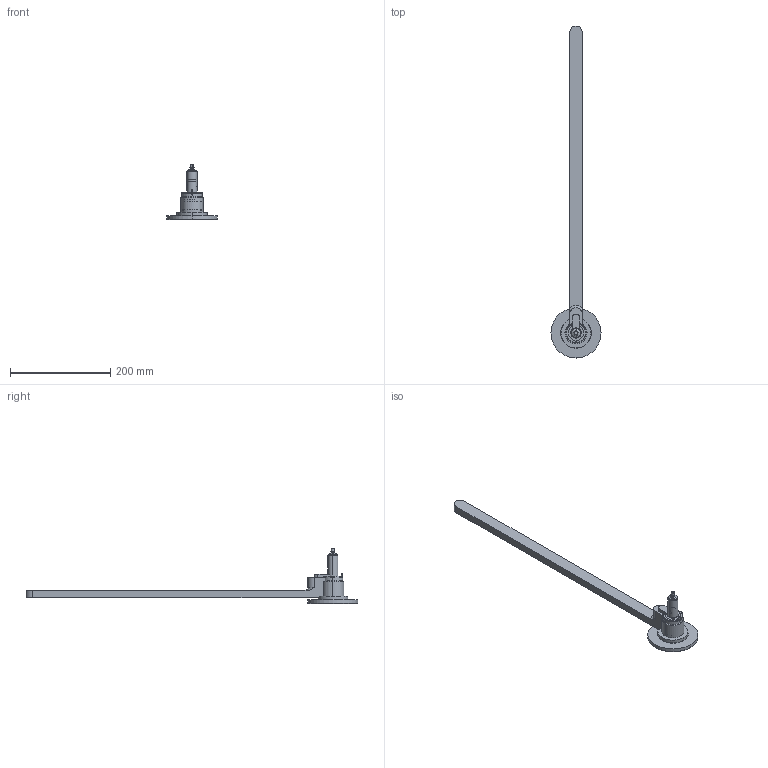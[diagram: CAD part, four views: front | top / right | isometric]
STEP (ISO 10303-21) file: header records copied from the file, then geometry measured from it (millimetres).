
FILE_DESCRIPTION (( 'STEP AP214' ), '1' );
FILE_NAME ('06S-03-050-##K.STEP', '2023-01-04T09:22:16', ( '' ), ( '' ), 'SwSTEP 2.0', 'SolidWorks 2018', '' );
FILE_SCHEMA (( 'AUTOMOTIVE_DESIGN' ));
Length unit declared in the file: millimetre
Products named in the file (3): cutout_06S-03-050-##K; nozzle_06S-03-050-##K; 06S-03-050-##K
Assembly tree (2 placements, depth 2):
  06S-03-050-##K
    nozzle_06S-03-050-##K
    cutout_06S-03-050-##K
Bounding box: 100 x 662.5 x 111 mm (x, y, z)
Volume: 373085.9 mm3; surface area: 94816.9 mm2
Topology: 1 solids, 6 shells, 458 faces, 1218 edges, 759 vertices
Faces by surface type: cylinder 185, plane 128, cone 78, torus 55, sphere 7, bspline 5
Entity records: 19287 total; most frequent: CARTESIAN_POINT 7581, DIRECTION 2562, ORIENTED_EDGE 2412, EDGE_CURVE 1207, AXIS2_PLACEMENT_3D 1049, VERTEX_POINT 759, CIRCLE 590, EDGE_LOOP 479
